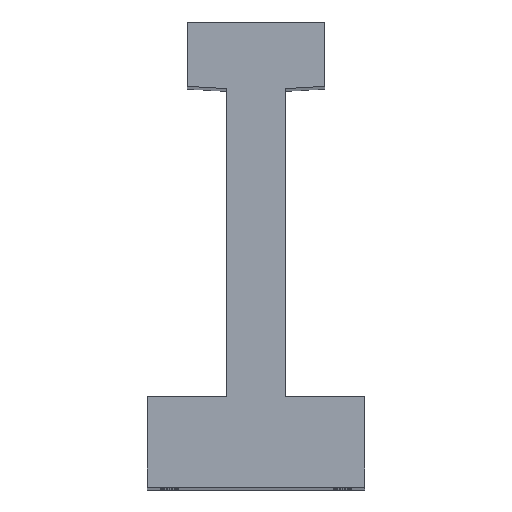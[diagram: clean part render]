
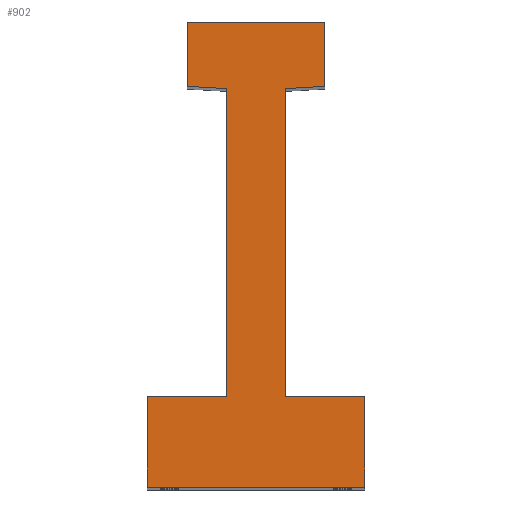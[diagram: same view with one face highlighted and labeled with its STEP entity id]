
A CAD part, top view. The second image highlights one B-rep face of the part: STEP entity #902.
In plain terms, the highlighted planar face has unit normal (0, 0, 1).
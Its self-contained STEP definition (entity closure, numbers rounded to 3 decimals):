
#50 = LINE ( 'NONE', #1783, #4208 ) ;
#96 = ORIENTED_EDGE ( 'NONE', *, *, #4607, .T. ) ;
#121 = CARTESIAN_POINT ( 'NONE',  ( 24.5, 0., 180.5 ) ) ;
#177 = VECTOR ( 'NONE', #1264, 1000. ) ;
#188 = CARTESIAN_POINT ( 'NONE',  ( 6.6, 89.8, 180.5 ) ) ;
#235 = ORIENTED_EDGE ( 'NONE', *, *, #1019, .T. ) ;
#314 = AXIS2_PLACEMENT_3D ( 'NONE', #5093, #2420, #3187 ) ;
#352 = CARTESIAN_POINT ( 'NONE',  ( 6.6, 20.5, 180.5 ) ) ;
#386 = DIRECTION ( 'NONE',  ( 0., 1., 0. ) ) ;
#395 = VERTEX_POINT ( 'NONE', #3246 ) ;
#403 = LINE ( 'NONE', #188, #4613 ) ;
#420 = LINE ( 'NONE', #4808, #3094 ) ;
#426 = VERTEX_POINT ( 'NONE', #1276 ) ;
#706 = EDGE_LOOP ( 'NONE', ( #2683, #2060, #96, #3252, #2532, #2875, #235, #4561, #3107, #4268, #3165, #1843 ) ) ;
#718 = VERTEX_POINT ( 'NONE', #4990 ) ;
#902 = ADVANCED_FACE ( 'NONE', ( #1369 ), #3224, .T. ) ;
#923 = VECTOR ( 'NONE', #386, 1000. ) ;
#994 = CARTESIAN_POINT ( 'NONE',  ( -24.5, 0., 180.5 ) ) ;
#1019 = EDGE_CURVE ( 'NONE', #3164, #395, #2272, .T. ) ;
#1049 = VECTOR ( 'NONE', #3534, 1000. ) ;
#1133 = LINE ( 'NONE', #2486, #177 ) ;
#1149 = EDGE_CURVE ( 'NONE', #1219, #718, #420, .T. ) ;
#1165 = VERTEX_POINT ( 'NONE', #3979 ) ;
#1219 = VERTEX_POINT ( 'NONE', #3220 ) ;
#1232 = VECTOR ( 'NONE', #1399, 1000. ) ;
#1264 = DIRECTION ( 'NONE',  ( 0., -1., 0. ) ) ;
#1276 = CARTESIAN_POINT ( 'NONE',  ( 6.6, 89.8, 180.5 ) ) ;
#1296 = LINE ( 'NONE', #3626, #923 ) ;
#1369 = FACE_OUTER_BOUND ( 'NONE', #706, .T. ) ;
#1399 = DIRECTION ( 'NONE',  ( 0., -1., 0. ) ) ;
#1413 = VERTEX_POINT ( 'NONE', #121 ) ;
#1503 = CARTESIAN_POINT ( 'NONE',  ( -6.6, 89.8, 180.5 ) ) ;
#1515 = DIRECTION ( 'NONE',  ( -1., 0., 0. ) ) ;
#1558 = EDGE_CURVE ( 'NONE', #718, #1712, #1133, .T. ) ;
#1712 = VERTEX_POINT ( 'NONE', #4151 ) ;
#1758 = EDGE_CURVE ( 'NONE', #1413, #3164, #50, .T. ) ;
#1783 = CARTESIAN_POINT ( 'NONE',  ( 24.5, 0., 180.5 ) ) ;
#1793 = CARTESIAN_POINT ( 'NONE',  ( -6.6, 20.5, 180.5 ) ) ;
#1836 = EDGE_CURVE ( 'NONE', #426, #4970, #403, .T. ) ;
#1843 = ORIENTED_EDGE ( 'NONE', *, *, #1558, .T. ) ;
#1877 = LINE ( 'NONE', #994, #1232 ) ;
#1916 = CARTESIAN_POINT ( 'NONE',  ( -24.5, 0., 180.5 ) ) ;
#1918 = DIRECTION ( 'NONE',  ( -0.998, 0.056, 0. ) ) ;
#1974 = EDGE_CURVE ( 'NONE', #4476, #1712, #3871, .T. ) ;
#1996 = VECTOR ( 'NONE', #3188, 1000. ) ;
#2045 = EDGE_CURVE ( 'NONE', #395, #426, #4117, .T. ) ;
#2060 = ORIENTED_EDGE ( 'NONE', *, *, #2930, .T. ) ;
#2209 = CARTESIAN_POINT ( 'NONE',  ( 15.5, 90.3, 180.5 ) ) ;
#2268 = CARTESIAN_POINT ( 'NONE',  ( 24.5, 20.5, 180.5 ) ) ;
#2272 = LINE ( 'NONE', #2268, #1049 ) ;
#2274 = CARTESIAN_POINT ( 'NONE',  ( -6.6, 89.8, 180.5 ) ) ;
#2344 = VECTOR ( 'NONE', #2867, 1000. ) ;
#2420 = DIRECTION ( 'NONE',  ( 0., 0., 1. ) ) ;
#2486 = CARTESIAN_POINT ( 'NONE',  ( -15.5, 89.8, 180.5 ) ) ;
#2532 = ORIENTED_EDGE ( 'NONE', *, *, #3382, .T. ) ;
#2683 = ORIENTED_EDGE ( 'NONE', *, *, #1974, .F. ) ;
#2847 = LINE ( 'NONE', #4069, #2344 ) ;
#2854 = CARTESIAN_POINT ( 'NONE',  ( -24.5, 0., 180.5 ) ) ;
#2867 = DIRECTION ( 'NONE',  ( 0., -1., 0. ) ) ;
#2875 = ORIENTED_EDGE ( 'NONE', *, *, #1758, .T. ) ;
#2914 = VERTEX_POINT ( 'NONE', #2854 ) ;
#2930 = EDGE_CURVE ( 'NONE', #4476, #3739, #2847, .T. ) ;
#3094 = VECTOR ( 'NONE', #3214, 1000. ) ;
#3107 = ORIENTED_EDGE ( 'NONE', *, *, #1836, .T. ) ;
#3164 = VERTEX_POINT ( 'NONE', #4222 ) ;
#3165 = ORIENTED_EDGE ( 'NONE', *, *, #1149, .T. ) ;
#3187 = DIRECTION ( 'NONE',  ( 1., 0., 0. ) ) ;
#3188 = DIRECTION ( 'NONE',  ( 0., 1., 0. ) ) ;
#3214 = DIRECTION ( 'NONE',  ( -1., 0., 0. ) ) ;
#3220 = CARTESIAN_POINT ( 'NONE',  ( 15.5, 104.8, 180.5 ) ) ;
#3224 = PLANE ( 'NONE',  #314 ) ;
#3246 = CARTESIAN_POINT ( 'NONE',  ( 6.6, 20.5, 180.5 ) ) ;
#3252 = ORIENTED_EDGE ( 'NONE', *, *, #4984, .T. ) ;
#3382 = EDGE_CURVE ( 'NONE', #2914, #1413, #4123, .T. ) ;
#3392 = DIRECTION ( 'NONE',  ( 0.998, 0.056, 0. ) ) ;
#3429 = LINE ( 'NONE', #4347, #4362 ) ;
#3534 = DIRECTION ( 'NONE',  ( -1., 0., 0. ) ) ;
#3626 = CARTESIAN_POINT ( 'NONE',  ( 15.5, 89.8, 180.5 ) ) ;
#3739 = VERTEX_POINT ( 'NONE', #1793 ) ;
#3751 = VECTOR ( 'NONE', #1918, 1000. ) ;
#3871 = LINE ( 'NONE', #1503, #3751 ) ;
#3943 = DIRECTION ( 'NONE',  ( 1., 0., 0. ) ) ;
#3979 = CARTESIAN_POINT ( 'NONE',  ( -24.5, 20.5, 180.5 ) ) ;
#4069 = CARTESIAN_POINT ( 'NONE',  ( -6.6, 20.5, 180.5 ) ) ;
#4117 = LINE ( 'NONE', #352, #1996 ) ;
#4123 = LINE ( 'NONE', #1916, #5187 ) ;
#4151 = CARTESIAN_POINT ( 'NONE',  ( -15.5, 90.3, 180.5 ) ) ;
#4208 = VECTOR ( 'NONE', #4579, 1000. ) ;
#4222 = CARTESIAN_POINT ( 'NONE',  ( 24.5, 20.5, 180.5 ) ) ;
#4268 = ORIENTED_EDGE ( 'NONE', *, *, #5123, .T. ) ;
#4347 = CARTESIAN_POINT ( 'NONE',  ( -24.5, 20.5, 180.5 ) ) ;
#4362 = VECTOR ( 'NONE', #1515, 1000. ) ;
#4476 = VERTEX_POINT ( 'NONE', #2274 ) ;
#4561 = ORIENTED_EDGE ( 'NONE', *, *, #2045, .T. ) ;
#4579 = DIRECTION ( 'NONE',  ( 0., 1., 0. ) ) ;
#4607 = EDGE_CURVE ( 'NONE', #3739, #1165, #3429, .T. ) ;
#4613 = VECTOR ( 'NONE', #3392, 1000. ) ;
#4808 = CARTESIAN_POINT ( 'NONE',  ( 15.5, 104.8, 180.5 ) ) ;
#4970 = VERTEX_POINT ( 'NONE', #2209 ) ;
#4984 = EDGE_CURVE ( 'NONE', #1165, #2914, #1877, .T. ) ;
#4990 = CARTESIAN_POINT ( 'NONE',  ( -15.5, 104.8, 180.5 ) ) ;
#5093 = CARTESIAN_POINT ( 'NONE',  ( 0., 0., 180.5 ) ) ;
#5123 = EDGE_CURVE ( 'NONE', #4970, #1219, #1296, .T. ) ;
#5187 = VECTOR ( 'NONE', #3943, 1000. ) ;
